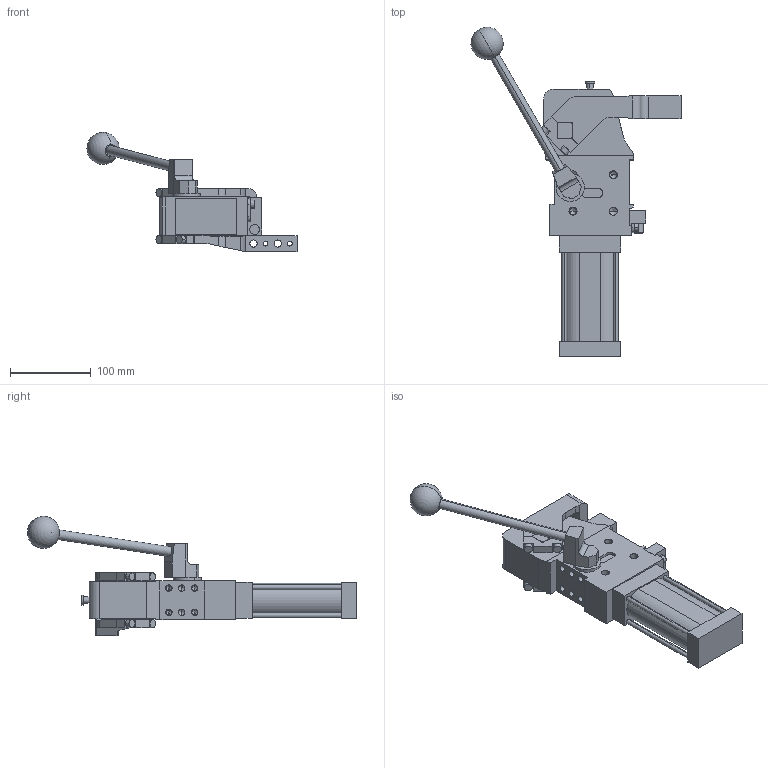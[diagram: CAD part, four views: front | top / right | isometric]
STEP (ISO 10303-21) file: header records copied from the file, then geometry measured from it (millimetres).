
FILE_DESCRIPTION (( 'STEP AP214' ), '1' );
FILE_NAME ('cplm50lav1dsi1g_16.STEP', '2023-01-26T13:15:16', ( '' ), ( '' ), 'SwSTEP 2.0', 'SolidWorks 2022', '' );
FILE_SCHEMA (( 'AUTOMOTIVE_DESIGN' ));
Length unit declared in the file: millimetre
Products named in the file (5): leva_sx_offset_15_cpl50; cplm50lav1dsi1g_16; blocchetto_VEP_0; meccanica_cplm_50; comando_manuale_cplm_50
Assembly tree (4 placements, depth 2):
  cplm50lav1dsi1g_16
    meccanica_cplm_50
    blocchetto_VEP_0
    leva_sx_offset_15_cpl50
    comando_manuale_cplm_50
Bounding box: 260.57 x 408.56 x 148 mm (x, y, z)
Volume: 1469960 mm3; surface area: 181399.7 mm2
Topology: 4 solids, 4 shells, 431 faces, 1108 edges, 691 vertices
Faces by surface type: plane 212, cylinder 167, cone 50, sphere 2
Entity records: 14371 total; most frequent: DIRECTION 2277, CARTESIAN_POINT 2271, ORIENTED_EDGE 2114, EDGE_CURVE 1057, AXIS2_PLACEMENT_3D 792, VECTOR 693, LINE 693, VERTEX_POINT 688
